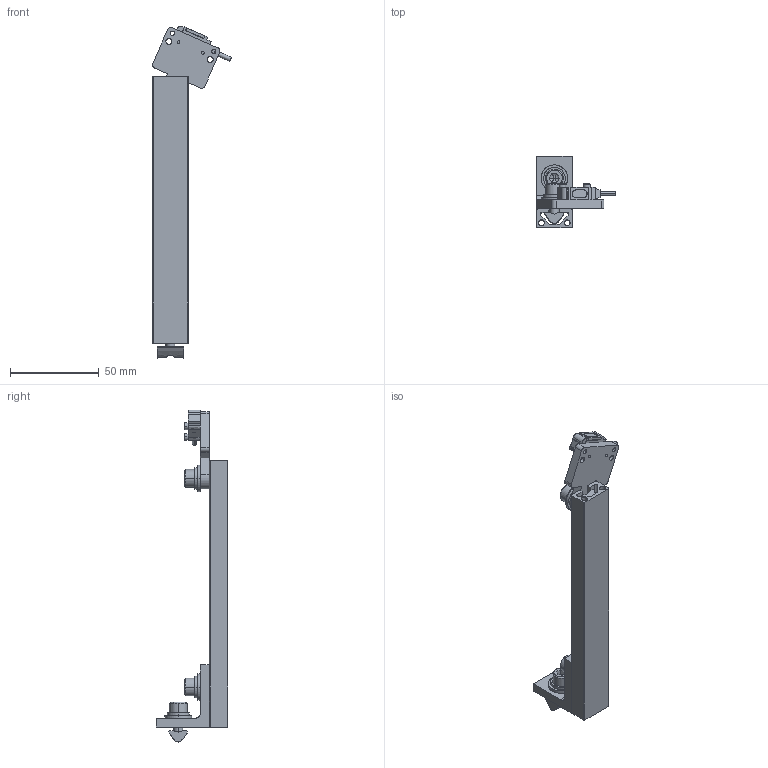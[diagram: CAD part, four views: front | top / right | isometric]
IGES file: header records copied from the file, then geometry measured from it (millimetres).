
Start section: SolidWorks IGES file using analytic representation for surfaces
Global section: file name: E:\EFCKishi\Šm”F\LLM\IGES\LLM-003.IGS; native system: SolidWorks 2006 by SolidWorks Corporation; preprocessor: SolidWorks 2006 by SolidWorks Corporation; author: CAD58; date: 080913.084733; units: millimetre
Bounding box: 44.41 x 40.5 x 186.87 mm (x, y, z)
Surface area: 28441.9 mm2 (no closed solid volume)
Topology: 0 solids, 0 shells, 319 faces, 3972 edges, 3942 vertices
Faces by surface type: bspline 208, revolution 111
